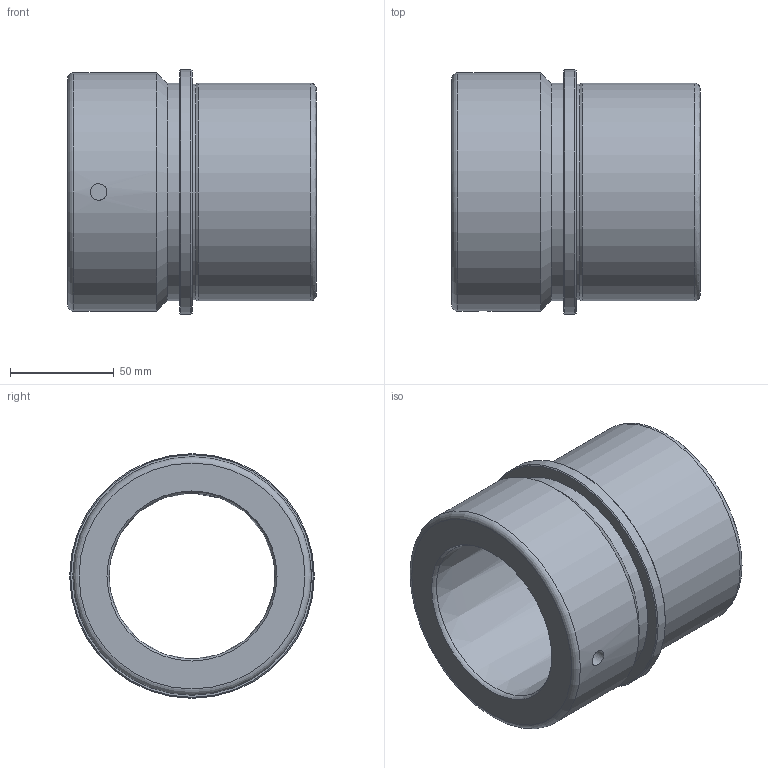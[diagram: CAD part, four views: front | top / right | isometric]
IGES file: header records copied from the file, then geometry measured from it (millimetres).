
Global section: file name: BEBA80-4.ipt; native system: Autodesk Inventor 2021; preprocessor: unknown; author: SM; date: 20220119.054301; units: millimetre
Bounding box: 120 x 118 x 118 mm (x, y, z)
Volume: 525076.1 mm3; surface area: 146472 mm2
Topology: 2 solids, 2 shells, 22 faces, 58 edges, 37 vertices
Faces by surface type: revolution 8, cylinder 6, plane 4, cone 4
Full cylindrical faces by diameter (mm): 82 x1, 104 x1, 105 x2, 115 x1, 118 x1
